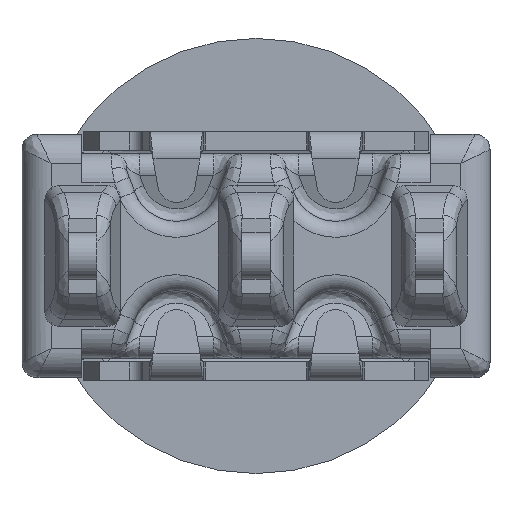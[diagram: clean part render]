
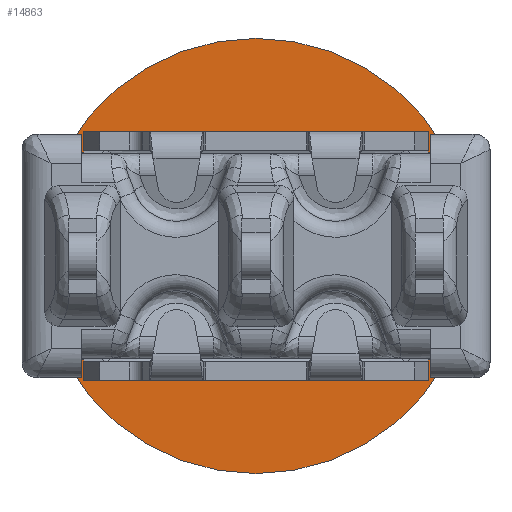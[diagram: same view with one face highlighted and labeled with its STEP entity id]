
A CAD part, front view. The second image highlights one B-rep face of the part: STEP entity #14863.
In plain terms, the highlighted planar face has unit normal (0, -1, 0).
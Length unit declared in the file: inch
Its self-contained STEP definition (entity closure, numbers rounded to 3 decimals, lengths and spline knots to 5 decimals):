
#1302=CARTESIAN_POINT('',(0.,0.04,0.));
#1303=DIRECTION('',(0.,1.,0.));
#1304=DIRECTION('',(1.,0.,0.));
#1305=AXIS2_PLACEMENT_3D('',#1302,#1303,#1304);
#1307=CARTESIAN_POINT('',(0.,0.04,0.));
#1308=DIRECTION('',(0.,-1.,0.));
#1309=DIRECTION('',(1.,0.,0.));
#1310=AXIS2_PLACEMENT_3D('',#1307,#1308,#1309);
#1312=CARTESIAN_POINT('',(0.,0.04,0.));
#1313=DIRECTION('',(0.,1.,0.));
#1314=DIRECTION('',(0.845,0.,0.536));
#1315=AXIS2_PLACEMENT_3D('',#1312,#1313,#1314);
#1317=DIRECTION('',(-1.,0.,0.));
#1318=VECTOR('',#1317,0.28545);
#1319=CARTESIAN_POINT('',(0.14273,0.04,-0.0905));
#1320=LINE('',#1319,#1318);
#1353=CARTESIAN_POINT('',(0.,0.04,0.));
#1354=DIRECTION('',(0.,1.,0.));
#1355=DIRECTION('',(-0.845,0.,-0.536));
#1356=AXIS2_PLACEMENT_3D('',#1353,#1354,#1355);
#1374=DIRECTION('',(1.,0.,0.));
#1375=VECTOR('',#1374,0.28545);
#1376=CARTESIAN_POINT('',(-0.14273,0.04,0.0905));
#1377=LINE('',#1376,#1375);
#13710=CARTESIAN_POINT('',(0.2325,0.04,0.));
#13712=VERTEX_POINT('',#13710);
#13714=CARTESIAN_POINT('',(-0.2325,0.04,0.));
#13716=VERTEX_POINT('',#13714);
#13984=CARTESIAN_POINT('',(0.14273,0.04,0.0905));
#13985=CARTESIAN_POINT('',(0.14273,0.04,-0.0905));
#13986=VERTEX_POINT('',#13984);
#13987=VERTEX_POINT('',#13985);
#13988=CARTESIAN_POINT('',(-0.14273,0.04,-0.0905));
#13989=VERTEX_POINT('',#13988);
#13990=CARTESIAN_POINT('',(-0.14273,0.04,0.0905));
#13991=VERTEX_POINT('',#13990);
#14844=CARTESIAN_POINT('',(0.,0.04,0.));
#14845=DIRECTION('',(0.,-1.,0.));
#14846=DIRECTION('',(1.,0.,0.));
#14847=AXIS2_PLACEMENT_3D('',#14844,#14845,#14846);
#14848=PLANE('',#14847);
#14849=ORIENTED_EDGE('',*,*,#14839,.T.);
#14850=ORIENTED_EDGE('',*,*,#14823,.F.);
#14851=EDGE_LOOP('',(#14849,#14850));
#14852=FACE_OUTER_BOUND('',#14851,.F.);
#14854=ORIENTED_EDGE('',*,*,#14853,.F.);
#14856=ORIENTED_EDGE('',*,*,#14855,.F.);
#14858=ORIENTED_EDGE('',*,*,#14857,.F.);
#14860=ORIENTED_EDGE('',*,*,#14859,.F.);
#14861=EDGE_LOOP('',(#14854,#14856,#14858,#14860));
#14862=FACE_BOUND('',#14861,.F.);
#14863=ADVANCED_FACE('',(#14852,#14862),#14848,.T.);
#1306=CIRCLE('',#1305,0.2325);
#1311=CIRCLE('',#1310,0.2325);
#1316=CIRCLE('',#1315,0.169);
#1357=CIRCLE('',#1356,0.169);
#14823=EDGE_CURVE('',#13712,#13716,#1311,.T.);
#14839=EDGE_CURVE('',#13712,#13716,#1306,.T.);
#14853=EDGE_CURVE('',#13986,#13987,#1316,.T.);
#14855=EDGE_CURVE('',#13991,#13986,#1377,.T.);
#14857=EDGE_CURVE('',#13989,#13991,#1357,.T.);
#14859=EDGE_CURVE('',#13987,#13989,#1320,.T.);
